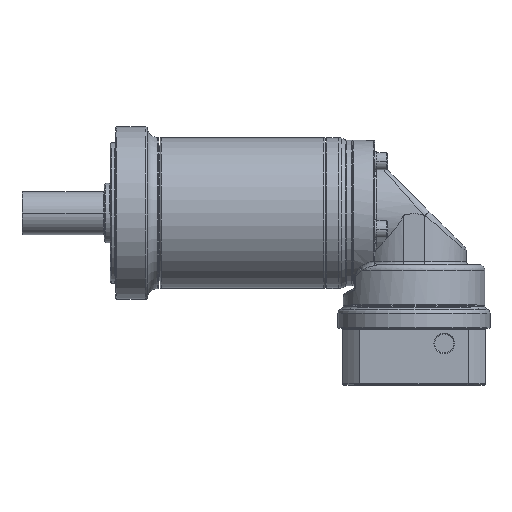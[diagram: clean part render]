
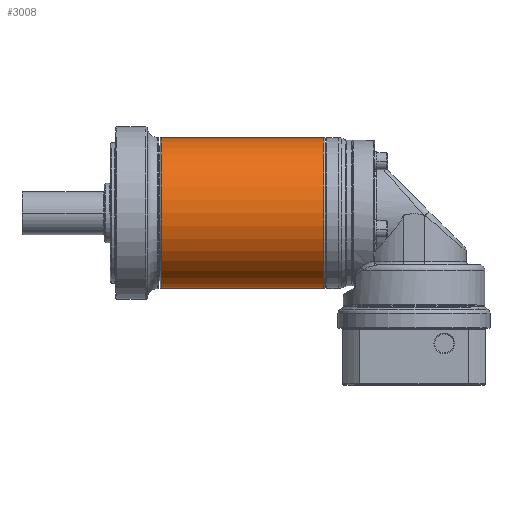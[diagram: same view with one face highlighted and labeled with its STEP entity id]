
A CAD part, top view. The second image highlights one B-rep face of the part: STEP entity #3008.
In plain terms, the highlighted cylindrical face has radius 70 mm (diameter 140 mm), a partial arc.
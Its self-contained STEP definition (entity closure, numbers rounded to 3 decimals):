
#2490=CARTESIAN_POINT('',(152.,0.,0.));
#2491=DIRECTION('',(-1.,0.,0.));
#2492=DIRECTION('',(0.,-1.,0.));
#2493=AXIS2_PLACEMENT_3D('',#2490,#2491,#2492);
#2495=DIRECTION('',(-1.,0.,0.));
#2496=VECTOR('',#2495,151.);
#2497=CARTESIAN_POINT('',(152.,-70.,0.));
#2498=LINE('',#2497,#2496);
#2499=CARTESIAN_POINT('',(1.,0.,0.));
#2500=DIRECTION('',(-1.,0.,0.));
#2501=DIRECTION('',(0.,-1.,0.));
#2502=AXIS2_PLACEMENT_3D('',#2499,#2500,#2501);
#2504=DIRECTION('',(-1.,0.,0.));
#2505=VECTOR('',#2504,151.);
#2506=CARTESIAN_POINT('',(152.,70.,0.));
#2507=LINE('',#2506,#2505);
#2859=CARTESIAN_POINT('',(1.,70.,0.));
#2860=CARTESIAN_POINT('',(1.,-70.,0.));
#2861=VERTEX_POINT('',#2859);
#2862=VERTEX_POINT('',#2860);
#2907=CARTESIAN_POINT('',(152.,70.,0.));
#2908=CARTESIAN_POINT('',(152.,-70.,0.));
#2909=VERTEX_POINT('',#2907);
#2910=VERTEX_POINT('',#2908);
#2995=CARTESIAN_POINT('',(160.65,0.,0.));
#2996=DIRECTION('',(-1.,0.,0.));
#2997=DIRECTION('',(0.,1.,0.));
#2998=AXIS2_PLACEMENT_3D('',#2995,#2996,#2997);
#2999=CYLINDRICAL_SURFACE('',#2998,70.);
#3001=ORIENTED_EDGE('',*,*,#3000,.F.);
#3002=ORIENTED_EDGE('',*,*,#2990,.T.);
#3004=ORIENTED_EDGE('',*,*,#3003,.T.);
#3005=ORIENTED_EDGE('',*,*,#2986,.F.);
#3006=EDGE_LOOP('',(#3001,#3002,#3004,#3005));
#3007=FACE_OUTER_BOUND('',#3006,.F.);
#3008=ADVANCED_FACE('',(#3007),#2999,.T.);
#2494=CIRCLE('',#2493,70.);
#2503=CIRCLE('',#2502,70.);
#2986=EDGE_CURVE('',#2909,#2861,#2507,.T.);
#2990=EDGE_CURVE('',#2910,#2862,#2498,.T.);
#3000=EDGE_CURVE('',#2910,#2909,#2494,.T.);
#3003=EDGE_CURVE('',#2862,#2861,#2503,.T.);
